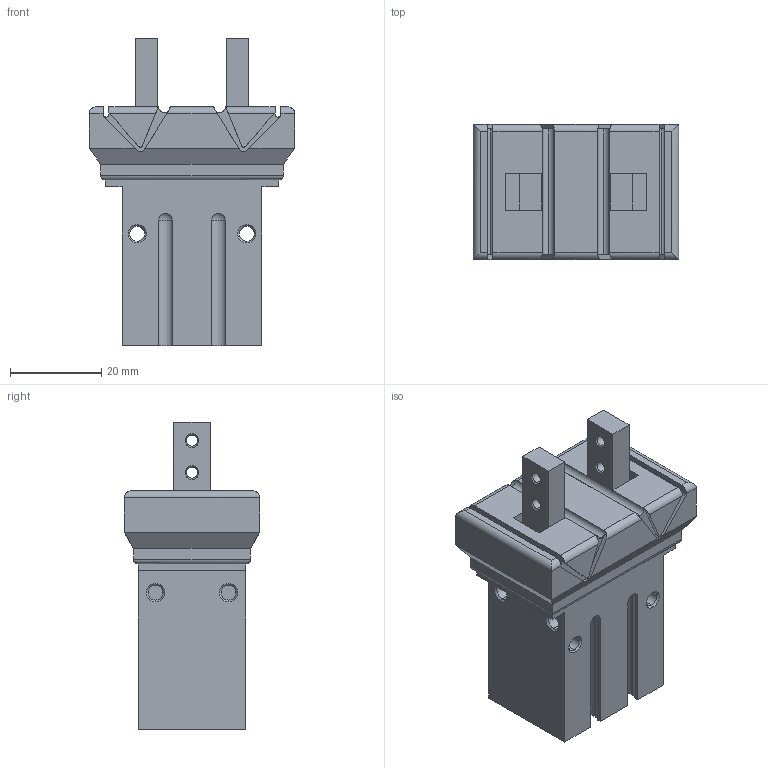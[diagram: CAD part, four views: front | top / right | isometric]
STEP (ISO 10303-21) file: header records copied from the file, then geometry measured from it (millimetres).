
FILE_DESCRIPTION (( 'STEP AP203' ), '1' );
FILE_NAME ('CHZJ2-16D.STEP', '2021-06-14T18:56:15', ( '' ), ( '' ), 'SwSTEP 2.0', 'SolidWorks 2019', '' );
FILE_SCHEMA (( 'CONFIG_CONTROL_DESIGN' ));
Length unit declared in the file: millimetre
Products named in the file (1): CHZJ2-16D
Bounding box: 45 x 29.6 x 67.3 mm (x, y, z)
Volume: 43866.2 mm3; surface area: 12239.7 mm2
Topology: 3 solids, 3 shells, 238 faces, 592 edges, 370 vertices
Faces by surface type: plane 100, cylinder 90, cone 44, sphere 4
Entity records: 7081 total; most frequent: CARTESIAN_POINT 1315, DIRECTION 1224, ORIENTED_EDGE 1164, EDGE_CURVE 582, AXIS2_PLACEMENT_3D 437, VERTEX_POINT 364, VECTOR 350, LINE 350
